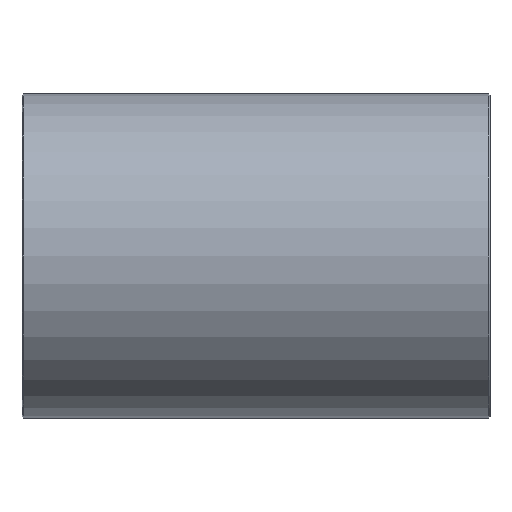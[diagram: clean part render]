
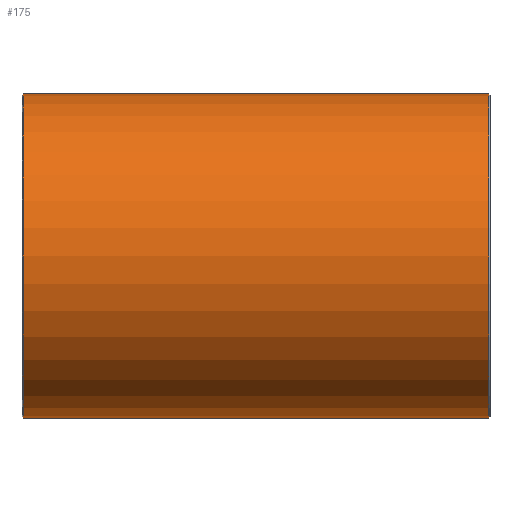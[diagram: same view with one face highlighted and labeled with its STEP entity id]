
A CAD part, front view. The second image highlights one B-rep face of the part: STEP entity #175.
In plain terms, the highlighted cylindrical face has radius 11.95 mm (diameter 23.9 mm), a full revolution.
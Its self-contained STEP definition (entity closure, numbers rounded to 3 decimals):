
#144=CARTESIAN_POINT('',(-17.15,11.95,0.));
#145=VERTEX_POINT('',#144);
#146=CARTESIAN_POINT('',(-17.15,0.0,0.0));
#147=DIRECTION('',(-1.0,0.0,0.0));
#148=DIRECTION('',(0.0,-1.0,0.0));
#149=AXIS2_PLACEMENT_3D('',#146,#147,#148);
#150=CIRCLE('',#149,11.95);
#151=EDGE_CURVE('',#145,#145,#150,.T.);
#156=CARTESIAN_POINT('',(0.0,0.0,0.0));
#157=DIRECTION('',(1.0,0.0,0.0));
#158=DIRECTION('',(0.0,1.0,0.0));
#159=AXIS2_PLACEMENT_3D('',#156,#157,#158);
#160=CYLINDRICAL_SURFACE('',#159,11.95);
#161=CARTESIAN_POINT('',(17.15,11.95,0.));
#162=VERTEX_POINT('',#161);
#163=CARTESIAN_POINT('',(17.15,0.0,0.0));
#164=DIRECTION('',(1.0,0.0,0.0));
#165=DIRECTION('',(0.0,-1.0,0.0));
#166=AXIS2_PLACEMENT_3D('',#163,#164,#165);
#167=CIRCLE('',#166,11.95);
#168=EDGE_CURVE('',#162,#162,#167,.T.);
#169=ORIENTED_EDGE('',*,*,#168,.F.);
#170=EDGE_LOOP('',(#169));
#171=FACE_OUTER_BOUND('',#170,.T.);
#172=ORIENTED_EDGE('',*,*,#151,.F.);
#173=EDGE_LOOP('',(#172));
#174=FACE_BOUND('',#173,.T.);
#175=ADVANCED_FACE('',(#171,#174),#160,.T.);
